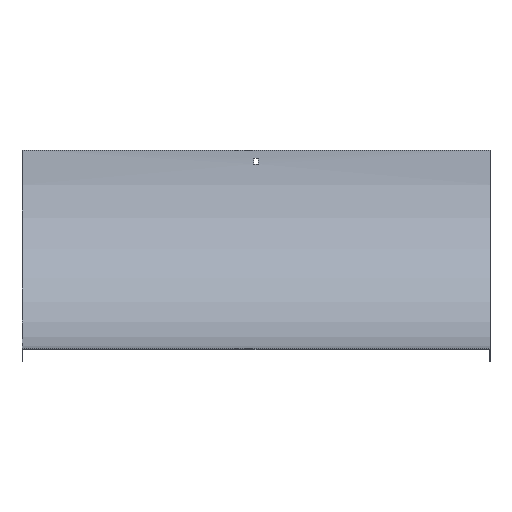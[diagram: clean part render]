
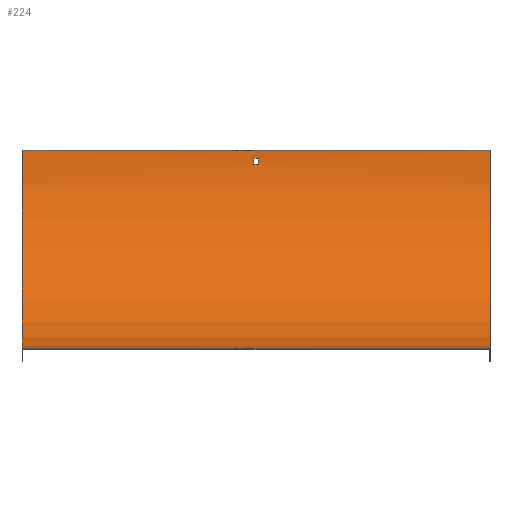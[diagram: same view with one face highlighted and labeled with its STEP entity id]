
A CAD part, top view. The second image highlights one B-rep face of the part: STEP entity #224.
In plain terms, the highlighted cylindrical face has radius 298.5 mm (diameter 597 mm), a partial arc.
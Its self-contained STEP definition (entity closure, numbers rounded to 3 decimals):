
#22 = CARTESIAN_POINT ( 'NONE',  ( 351.5, 298.5, -298.5 ) ) ;
#23 = CARTESIAN_POINT ( 'NONE',  ( -3.25, 298.5, 0. ) ) ;
#29 = DIRECTION ( 'NONE',  ( 0., 0., 1. ) ) ;
#31 = VERTEX_POINT ( 'NONE', #162 ) ;
#44 = EDGE_CURVE ( 'NONE', #157, #139, #496, .T. ) ;
#45 = VERTEX_POINT ( 'NONE', #398 ) ;
#52 = CIRCLE ( 'NONE', #308, 298.5 ) ;
#54 = ORIENTED_EDGE ( 'NONE', *, *, #489, .F. ) ;
#58 = VERTEX_POINT ( 'NONE', #583 ) ;
#61 = LINE ( 'NONE', #250, #557 ) ;
#69 = CIRCLE ( 'NONE', #418, 298.5 ) ;
#72 = CARTESIAN_POINT ( 'NONE',  ( 351.5, 0., 0. ) ) ;
#73 = DIRECTION ( 'NONE',  ( -1., 0., 0. ) ) ;
#77 = AXIS2_PLACEMENT_3D ( 'NONE', #154, #209, #525 ) ;
#86 = EDGE_CURVE ( 'NONE', #58, #281, #61, .T. ) ;
#94 = CARTESIAN_POINT ( 'NONE',  ( 351.5, 0.241, -12. ) ) ;
#95 = ORIENTED_EDGE ( 'NONE', *, *, #530, .T. ) ;
#101 = VECTOR ( 'NONE', #222, 1000. ) ;
#103 = VECTOR ( 'NONE', #399, 1000. ) ;
#117 = VECTOR ( 'NONE', #383, 1000. ) ;
#119 = DIRECTION ( 'NONE',  ( 1., 0., 0. ) ) ;
#137 = VERTEX_POINT ( 'NONE', #305 ) ;
#139 = VERTEX_POINT ( 'NONE', #319 ) ;
#141 = CIRCLE ( 'NONE', #442, 298.5 ) ;
#154 = CARTESIAN_POINT ( 'NONE',  ( -351.5, 298.5, 0. ) ) ;
#157 = VERTEX_POINT ( 'NONE', #407 ) ;
#162 = CARTESIAN_POINT ( 'NONE',  ( 3.25, 0.74, -21. ) ) ;
#180 = EDGE_CURVE ( 'NONE', #31, #492, #69, .T. ) ;
#181 = DIRECTION ( 'NONE',  ( -1., 0., 0. ) ) ;
#184 = EDGE_LOOP ( 'NONE', ( #457, #555, #513, #328 ) ) ;
#185 = VERTEX_POINT ( 'NONE', #356 ) ;
#195 = DIRECTION ( 'NONE',  ( -1., 0., 0. ) ) ;
#206 = DIRECTION ( 'NONE',  ( 1., 0., 0. ) ) ;
#209 = DIRECTION ( 'NONE',  ( -1., 0., 0. ) ) ;
#217 = EDGE_CURVE ( 'NONE', #278, #58, #526, .T. ) ;
#221 = ORIENTED_EDGE ( 'NONE', *, *, #326, .F. ) ;
#222 = DIRECTION ( 'NONE',  ( -1., 0., 0. ) ) ;
#223 = CARTESIAN_POINT ( 'NONE',  ( 351.5, 298.5, 0. ) ) ;
#224 = ADVANCED_FACE ( 'NONE', ( #589, #359, #539 ), #491, .F. ) ;
#226 = DIRECTION ( 'NONE',  ( -1., 0., 0. ) ) ;
#236 = EDGE_CURVE ( 'NONE', #425, #441, #52, .T. ) ;
#245 = VECTOR ( 'NONE', #226, 1000. ) ;
#250 = CARTESIAN_POINT ( 'NONE',  ( 351.5, 277.5, -297.76 ) ) ;
#256 = EDGE_CURVE ( 'NONE', #185, #137, #387, .T. ) ;
#278 = VERTEX_POINT ( 'NONE', #484 ) ;
#281 = VERTEX_POINT ( 'NONE', #567 ) ;
#284 = CARTESIAN_POINT ( 'NONE',  ( 351.5, 298.5, 0. ) ) ;
#293 = VECTOR ( 'NONE', #119, 1000. ) ;
#305 = CARTESIAN_POINT ( 'NONE',  ( -3.25, 0.74, -21. ) ) ;
#308 = AXIS2_PLACEMENT_3D ( 'NONE', #284, #195, #504 ) ;
#309 = CARTESIAN_POINT ( 'NONE',  ( 3.25, 298.5, 0. ) ) ;
#310 = EDGE_CURVE ( 'NONE', #441, #139, #590, .T. ) ;
#312 = DIRECTION ( 'NONE',  ( -1., 0., 0. ) ) ;
#315 = DIRECTION ( 'NONE',  ( 0., 1., 0. ) ) ;
#319 = CARTESIAN_POINT ( 'NONE',  ( -351.5, 0., 0. ) ) ;
#320 = AXIS2_PLACEMENT_3D ( 'NONE', #23, #312, #315 ) ;
#326 = EDGE_CURVE ( 'NONE', #45, #278, #369, .T. ) ;
#328 = ORIENTED_EDGE ( 'NONE', *, *, #422, .T. ) ;
#356 = CARTESIAN_POINT ( 'NONE',  ( -3.25, 0.241, -12. ) ) ;
#359 = FACE_BOUND ( 'NONE', #454, .T. ) ;
#361 = LINE ( 'NONE', #490, #293 ) ;
#369 = LINE ( 'NONE', #596, #101 ) ;
#373 = LINE ( 'NONE', #94, #117 ) ;
#379 = CARTESIAN_POINT ( 'NONE',  ( -3.25, 298.5, 0. ) ) ;
#383 = DIRECTION ( 'NONE',  ( -1., 0., 0. ) ) ;
#387 = CIRCLE ( 'NONE', #464, 298.5 ) ;
#398 = CARTESIAN_POINT ( 'NONE',  ( 3.25, 286.5, -298.259 ) ) ;
#399 = DIRECTION ( 'NONE',  ( -1., 0., 0. ) ) ;
#407 = CARTESIAN_POINT ( 'NONE',  ( -351.5, 298.5, -298.5 ) ) ;
#408 = EDGE_CURVE ( 'NONE', #137, #31, #361, .T. ) ;
#410 = CARTESIAN_POINT ( 'NONE',  ( 351.5, 0., 0. ) ) ;
#414 = DIRECTION ( 'NONE',  ( 0., 0., -1. ) ) ;
#418 = AXIS2_PLACEMENT_3D ( 'NONE', #309, #181, #414 ) ;
#420 = CARTESIAN_POINT ( 'NONE',  ( 3.25, 298.5, 0. ) ) ;
#422 = EDGE_CURVE ( 'NONE', #425, #157, #533, .T. ) ;
#424 = DIRECTION ( 'NONE',  ( 0., 0., 1. ) ) ;
#425 = VERTEX_POINT ( 'NONE', #584 ) ;
#441 = VERTEX_POINT ( 'NONE', #72 ) ;
#442 = AXIS2_PLACEMENT_3D ( 'NONE', #420, #561, #424 ) ;
#454 = EDGE_LOOP ( 'NONE', ( #95, #465, #551, #559 ) ) ;
#457 = ORIENTED_EDGE ( 'NONE', *, *, #44, .T. ) ;
#464 = AXIS2_PLACEMENT_3D ( 'NONE', #379, #558, #481 ) ;
#465 = ORIENTED_EDGE ( 'NONE', *, *, #256, .T. ) ;
#481 = DIRECTION ( 'NONE',  ( 0., 0., 1. ) ) ;
#484 = CARTESIAN_POINT ( 'NONE',  ( -3.25, 286.5, -298.259 ) ) ;
#489 = EDGE_CURVE ( 'NONE', #281, #45, #141, .T. ) ;
#490 = CARTESIAN_POINT ( 'NONE',  ( 351.5, 0.74, -21. ) ) ;
#491 = CYLINDRICAL_SURFACE ( 'NONE', #536, 298.5 ) ;
#492 = VERTEX_POINT ( 'NONE', #603 ) ;
#495 = EDGE_LOOP ( 'NONE', ( #607, #221, #54, #527 ) ) ;
#496 = CIRCLE ( 'NONE', #77, 298.5 ) ;
#504 = DIRECTION ( 'NONE',  ( 0., 0., 1. ) ) ;
#513 = ORIENTED_EDGE ( 'NONE', *, *, #236, .F. ) ;
#525 = DIRECTION ( 'NONE',  ( 0., 0., 1. ) ) ;
#526 = CIRCLE ( 'NONE', #320, 298.5 ) ;
#527 = ORIENTED_EDGE ( 'NONE', *, *, #86, .F. ) ;
#530 = EDGE_CURVE ( 'NONE', #492, #185, #373, .T. ) ;
#533 = LINE ( 'NONE', #22, #103 ) ;
#536 = AXIS2_PLACEMENT_3D ( 'NONE', #223, #73, #29 ) ;
#539 = FACE_BOUND ( 'NONE', #495, .T. ) ;
#551 = ORIENTED_EDGE ( 'NONE', *, *, #408, .T. ) ;
#555 = ORIENTED_EDGE ( 'NONE', *, *, #310, .F. ) ;
#557 = VECTOR ( 'NONE', #206, 1000. ) ;
#558 = DIRECTION ( 'NONE',  ( 1., 0., 0. ) ) ;
#559 = ORIENTED_EDGE ( 'NONE', *, *, #180, .T. ) ;
#561 = DIRECTION ( 'NONE',  ( 1., 0., 0. ) ) ;
#567 = CARTESIAN_POINT ( 'NONE',  ( 3.25, 277.5, -297.76 ) ) ;
#583 = CARTESIAN_POINT ( 'NONE',  ( -3.25, 277.5, -297.76 ) ) ;
#584 = CARTESIAN_POINT ( 'NONE',  ( 351.5, 298.5, -298.5 ) ) ;
#589 = FACE_OUTER_BOUND ( 'NONE', #184, .T. ) ;
#590 = LINE ( 'NONE', #410, #245 ) ;
#596 = CARTESIAN_POINT ( 'NONE',  ( 351.5, 286.5, -298.259 ) ) ;
#603 = CARTESIAN_POINT ( 'NONE',  ( 3.25, 0.241, -12. ) ) ;
#607 = ORIENTED_EDGE ( 'NONE', *, *, #217, .F. ) ;
